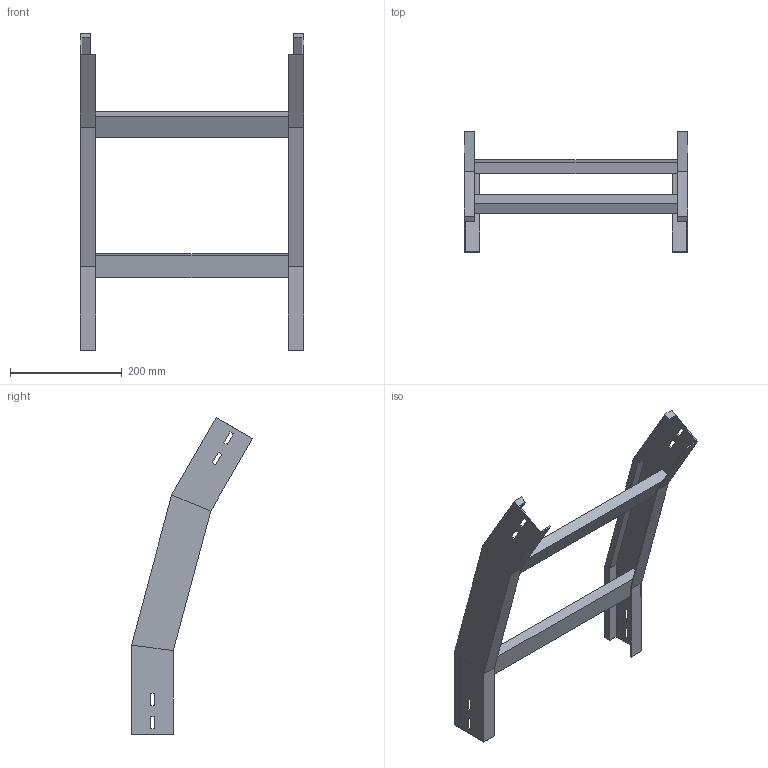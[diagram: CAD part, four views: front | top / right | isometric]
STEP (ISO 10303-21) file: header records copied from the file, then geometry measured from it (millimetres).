
FILE_DESCRIPTION (( 'STEP AP214' ), '1' );
FILE_NAME ('35B5C400.step', '2025-02-21T14:49:19', ( '' ), ( '' ), 'SwSTEP 2.0', 'SolidWorks 2023', '' );
FILE_SCHEMA (( 'AUTOMOTIVE_DESIGN' ));
Length unit declared in the file: millimetre
Products named in the file (3): TRAVERSINO_400; LONGH.DISCESA_30°_H75_R500; 35B5C400
Assembly tree (5 placements, depth 2):
  35B5C400
    LONGH.DISCESA_30°_H75_R500  x2
    TRAVERSINO_400  x3
Bounding box: 400 x 217.03 x 567.58 mm (x, y, z)
Volume: 1418002.1 mm3; surface area: 420948.5 mm2
Topology: 5 solids, 5 shells, 102 faces, 244 edges, 152 vertices
Faces by surface type: plane 102
Entity records: 1480 total; most frequent: CARTESIAN_POINT 244, ORIENTED_EDGE 232, DIRECTION 228, LINE 116, VECTOR 116, EDGE_CURVE 116, VERTEX_POINT 72, EDGE_LOOP 56
